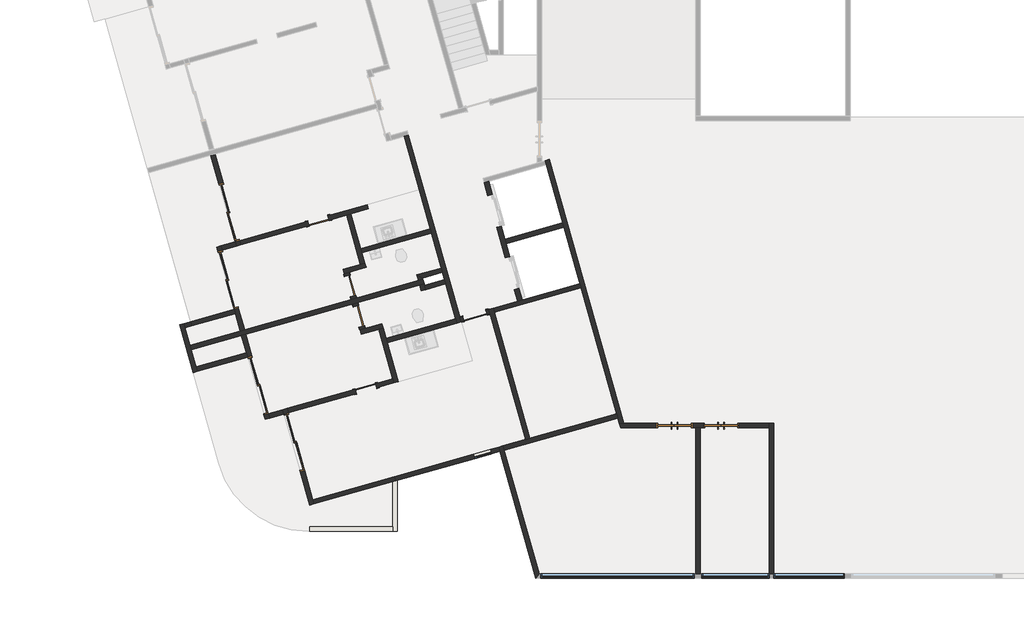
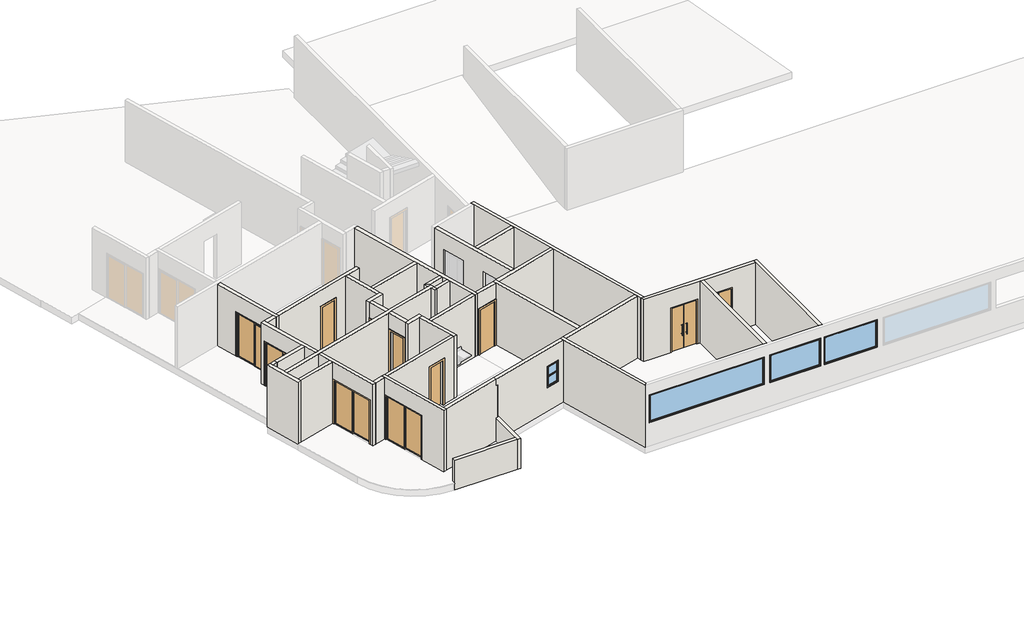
# One storey, part 1 of 4: 41 walls, 11 doors, 4 windows.
"""IFC4 building model written with IfcOpenShell, lengths in millimetres."""

from ifc_helpers import new_model, si_unit, frame, origin, place, context, project, spatial, polyline, outline, extrude, faceted_brep, transform, mapped, element, save
from components import door_1_20_x_2_10_046a985c, p2_80cm_9d4be4ef, p3_70cm_ef4d15e3, p3_70cm_0a698c7c, p4_correr_200cm_eaaa0877, p4_correr_200cm_830b8f20, bx_60cm_cef95a5c, m_fixo1_jf_2_25m_9b9146e4, m_fixo1_jf_2_35m_2763504e, m_fixo1_jf_5_10m_2770cfa0

model = new_model("IFC4")

# Units and contexts
model_context = context("Model", 3, world=origin())
ifc_project = project(units=[si_unit("LENGTHUNIT", "METRE", prefix="MILLI")], contexts=[model_context])

# Site, building, storey
site = spatial("IfcSite", under=ifc_project)
building = spatial("IfcBuilding", under=site)
storey = spatial("IfcBuildingStorey", under=building, Name="Garagem 2", Elevation=44950.0)

# Doors
placement = place(None, origin())
door_1_20_x_2_10_shape = door_1_20_x_2_10_046a985c(model_context)
element("IfcDoor", 1, ObjectType="Porta pivotante dupla sem revestimento : 1.20 x 2.10", at=placement, inside=storey, context=model_context, shape_type="MappedRepresentation", body=[
    mapped(door_1_20_x_2_10_shape, transform((-69028.6137209, 8486.0495751, 44950.0), x_axis=(1.0, 0.0, 0.0), y_axis=(0.0, 1.0, 0.0), z_axis=(0.0, 0.0, 1.0))),
])
element("IfcDoor", 2, ObjectType="Porta pivotante dupla sem revestimento : 1.20 x 2.10", at=placement, inside=storey, context=model_context, shape_type="MappedRepresentation", body=[
    mapped(door_1_20_x_2_10_shape, transform((-70578.6137209, 8486.0495751, 44950.0), x_axis=(1.0, 0.0, 0.0), y_axis=(0.0, 1.0, 0.0), z_axis=(0.0, 0.0, 1.0))),
])
p2_80cm_shape = p2_80cm_9d4be4ef(model_context)
element("IfcDoor", 3, ObjectType="M_Folha única1 : P2 - 80CM", at=placement, inside=storey, context=model_context, shape_type="MappedRepresentation", body=[
    mapped(p2_80cm_shape, transform((-77213.6668366, 12144.847648, 44950.0), x_axis=(0.9623628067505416, 0.2717679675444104, 0.0), y_axis=(-0.2717679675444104, 0.9623628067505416, 0.0), z_axis=(0.0, 0.0, 1.0))),
])
p3_70cm_shape = p3_70cm_ef4d15e3(model_context)
element("IfcDoor", 4, ObjectType="M_Folha única1 : P3 - 70CM", at=placement, inside=storey, context=model_context, shape_type="MappedRepresentation", body=[
    mapped(p3_70cm_shape, transform((-80840.7851368, 9718.5269225, 44950.0), x_axis=(0.9623628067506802, 0.2717679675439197, 0.0), y_axis=(-0.2717679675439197, 0.9623628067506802, 0.0), z_axis=(0.0, 0.0, 1.0))),
])
element("IfcDoor", 5, ObjectType="M_Folha única1 : P3 - 70CM", at=placement, inside=storey, context=model_context, shape_type="MappedRepresentation", body=[
    mapped(p3_70cm_shape, transform((-81362.5862327, 13130.1209218, 44950.0), x_axis=(0.271767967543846, -0.9623628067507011, 0.0), y_axis=(0.9623628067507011, 0.271767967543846, 0.0), z_axis=(0.0, 0.0, 1.0))),
])
p3_70cm_2_shape = p3_70cm_0a698c7c(model_context)
element("IfcDoor", 6, ObjectType="M_Folha única1 : P3 - 70CM", at=placement, inside=storey, context=model_context, shape_type="MappedRepresentation", body=[
    mapped(p3_70cm_2_shape, transform((-81077.2298668, 12119.6399747, 44950.0), x_axis=(-0.27176796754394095, 0.9623628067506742, 0.0), y_axis=(-0.9623628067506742, -0.27176796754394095, 0.0), z_axis=(0.0, 0.0, 1.0))),
])
element("IfcDoor", 7, ObjectType="M_Folha única1 : P3 - 70CM", at=placement, inside=storey, context=model_context, shape_type="MappedRepresentation", body=[
    mapped(p3_70cm_2_shape, transform((-82417.0393485, 15300.2312016, 44950.0), x_axis=(0.9623628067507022, 0.27176796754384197, 0.0), y_axis=(-0.27176796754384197, 0.9623628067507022, 0.0), z_axis=(0.0, 0.0, 1.0))),
])
p4_correr_200cm_shape = p4_correr_200cm_eaaa0877(model_context)
element("IfcDoor", 8, ObjectType="Porta de correr dupla envidraçada sem revestimento : P4 - CORRER - 200CM", at=placement, inside=storey, context=model_context, shape_type="MappedRepresentation", body=[
    mapped(p4_correr_200cm_shape, transform((-84429.028315, 9822.2616509, 44950.0), x_axis=(-0.27176796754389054, 0.9623628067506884, 0.0), y_axis=(-0.9623628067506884, -0.27176796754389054, 0.0), z_axis=(0.0, 0.0, 1.0))),
])
element("IfcDoor", 9, ObjectType="Porta de correr dupla envidraçada sem revestimento : P4 - CORRER - 200CM", at=placement, inside=storey, context=model_context, shape_type="MappedRepresentation", body=[
    mapped(p4_correr_200cm_shape, transform((-83223.012588, 7928.7516937, 44950.0), x_axis=(-0.2717679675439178, 0.9623628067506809, 0.0), y_axis=(-0.9623628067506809, -0.2717679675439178, 0.0), z_axis=(0.0, 0.0, 1.0))),
])
p4_correr_200cm_2_shape = p4_correr_200cm_830b8f20(model_context)
element("IfcDoor", 10, ObjectType="Porta de correr dupla envidraçada sem revestimento : P4 - CORRER - 200CM", at=placement, inside=storey, context=model_context, shape_type="MappedRepresentation", body=[
    mapped(p4_correr_200cm_2_shape, transform((-85383.5679299, 15579.5360073, 44950.0), x_axis=(-0.2717679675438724, 0.9623628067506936, 0.0), y_axis=(-0.9623628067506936, -0.2717679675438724, 0.0), z_axis=(0.0, 0.0, 1.0))),
])
element("IfcDoor", 11, ObjectType="Porta de correr dupla envidraçada sem revestimento : P4 - CORRER - 200CM", at=placement, inside=storey, context=model_context, shape_type="MappedRepresentation", body=[
    mapped(p4_correr_200cm_2_shape, transform((-85420.9813965, 13334.8858955, 44950.0), x_axis=(-0.27176796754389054, 0.9623628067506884, 0.0), y_axis=(-0.9623628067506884, -0.27176796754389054, 0.0), z_axis=(0.0, 0.0, 1.0))),
])

# Walls
element("IfcWall", 12, ObjectType="Básica .15 -  Interna", at=placement, inside=storey, context=model_context, shape_type="Brep", body=[
    faceted_brep([(-75385.7571642, 8063.7475359, 44950.0), (-76567.7484146, 12249.3196164, 44950.0), (-76608.5136097, 12393.6740374, 44950.0), (-76608.5136097, 12393.6740374, 47850.0), (-76567.7484146, 12249.3196164, 47850.0), (-75385.7571642, 8063.7475359, 47850.0), (-75530.1115852, 8022.9823408, 44950.0), (-75530.1115852, 8022.9823408, 47850.0), (-76712.1028356, 12208.5544213, 47850.0), (-76752.8680308, 12352.9088423, 47850.0), (-76752.8680308, 12352.9088423, 44950.0), (-76712.1028356, 12208.5544213, 44950.0)], [[[0, 1, 2, 3, 4, 5]], [[6, 7, 8, 9, 10, 11]], [[2, 1, 0, 6, 11, 10]], [[5, 4, 3, 9, 8, 7]], [[3, 2, 10, 9]], [[0, 5, 7, 6]]]),
])
element("IfcWall", 13, ObjectType="Básica .15 -  Interna", at=placement, inside=storey, context=model_context, shape_type="Brep", body=[
    faceted_brep([(-79571.9228624, 18103.967491, 44950.0), (-78702.2653663, 15024.4065094, 44950.0), (-78661.5001712, 14880.0520884, 44950.0), (-78335.3786101, 13725.2167203, 44950.0), (-78294.613415, 13580.8622993, 44950.0), (-78226.6714231, 13340.2715976, 44950.0), (-78185.906228, 13195.9171766, 44950.0), (-77818.8200634, 11896.0212586, 44950.0), (-77818.8200634, 11896.0212586, 47850.0), (-78185.906228, 13195.9171766, 47850.0), (-78226.6714231, 13340.2715976, 47850.0), (-78294.613415, 13580.8622993, 47850.0), (-78335.3786101, 13725.2167203, 47850.0), (-78661.5001712, 14880.0520884, 47850.0), (-78702.2653663, 15024.4065094, 47850.0), (-79571.9228624, 18103.967491, 47850.0), (-79427.5684414, 18144.7326862, 44950.0), (-79427.5684414, 18144.7326862, 47850.0), (-77715.2308375, 12081.1408747, 47850.0), (-77674.4656424, 11936.7864537, 47850.0), (-77674.4656424, 11936.7864537, 44950.0), (-77715.2308375, 12081.1408747, 44950.0)], [[[0, 1, 2, 3, 4, 5, 6, 7, 8, 9, 10, 11, 12, 13, 14, 15]], [[16, 17, 18, 19, 20, 21]], [[7, 6, 5, 4, 3, 2, 1, 0, 16, 21, 20]], [[15, 14, 13, 12, 11, 10, 9, 8, 19, 18, 17]], [[0, 15, 17, 16]], [[8, 7, 20, 19]]]),
])
element("IfcWall", 14, ObjectType="Básica .15 -  Interna", at=placement, inside=storey, context=model_context, shape_type="Brep", body=[
    faceted_brep([(-85017.5646639, 11630.3683862, 47850.0), (-85180.6254444, 12207.7860702, 47850.0), (-85221.3906395, 12352.1404912, 47850.0), (-85805.6917697, 14421.2205257, 47850.0), (-85805.6917697, 14421.2205257, 44950.0), (-85764.9265746, 14276.8661047, 44950.0), (-85764.9265746, 14276.8661047, 47050.0), (-85221.3906395, 12352.1404912, 47050.0), (-85221.3906395, 12352.1404912, 44950.0), (-85180.6254444, 12207.7860702, 44950.0), (-85017.5646639, 11630.3683862, 44950.0), (-85661.3373487, 14461.9857209, 47850.0), (-85620.5721536, 14317.6312998, 47850.0), (-84873.2102428, 11671.1335813, 47850.0), (-84873.2102428, 11671.1335813, 44950.0), (-85077.0362185, 12392.9056863, 44950.0), (-85077.0362185, 12392.9056863, 47050.0), (-85620.5721536, 14317.6312998, 47050.0), (-85620.5721536, 14317.6312998, 44950.0), (-85661.3373487, 14461.9857209, 44950.0)], [[[0, 1, 2, 3, 4, 5, 6, 7, 8, 9, 10]], [[11, 12, 13, 14, 15, 16, 17, 18, 19]], [[4, 19, 18, 5]], [[14, 10, 9, 8, 15]], [[3, 2, 1, 0, 13, 12, 11]], [[4, 3, 11, 19]], [[0, 10, 14, 13]], [[17, 6, 5, 18]], [[6, 17, 16, 7]], [[7, 16, 15, 8]]]),
])
element("IfcWall", 15, ObjectType="Básica .15 -  Interna", at=placement, inside=storey, context=model_context, shape_type="Brep", body=[
    faceted_brep([(-82710.8886682, 5839.2890616, 47850.0), (-83566.957766, 8870.7319029, 47850.0), (-83607.7229611, 9015.0863239, 47850.0), (-83607.7229611, 9015.0863239, 44950.0), (-83566.957766, 8870.7319029, 44950.0), (-83566.957766, 8870.7319029, 47050.0), (-83023.4218309, 6946.0062894, 47050.0), (-83023.4218309, 6946.0062894, 44950.0), (-82710.8886682, 5839.2890616, 44950.0), (-83463.3685401, 9055.851519, 47850.0), (-83422.603345, 8911.497098, 47850.0), (-82607.2994424, 6024.4086777, 47850.0), (-82566.5342472, 5880.0542567, 47850.0), (-82566.5342472, 5880.0542567, 44950.0), (-82607.2994424, 6024.4086777, 44950.0), (-82879.0674099, 6986.7714845, 44950.0), (-82879.0674099, 6986.7714845, 47050.0), (-83422.603345, 8911.497098, 47050.0), (-83422.603345, 8911.497098, 44950.0), (-83463.3685401, 9055.851519, 44950.0)], [[[0, 1, 2, 3, 4, 5, 6, 7, 8]], [[9, 10, 11, 12, 13, 14, 15, 16, 17, 18, 19]], [[3, 19, 18, 4]], [[13, 8, 7, 15, 14]], [[2, 1, 0, 12, 11, 10, 9]], [[3, 2, 9, 19]], [[0, 8, 13, 12]], [[17, 5, 4, 18]], [[5, 17, 16, 6]], [[6, 16, 15, 7]]]),
])
element("IfcWall", 16, ObjectType="Básica .15 - Externa", at=placement, inside=storey, context=model_context, shape_type="Brep", body=[
    faceted_brep([(-79945.4990038, 6620.2256515, 46050.0), (-79945.4990038, 6620.2256515, 44950.0), (-79945.4990038, 6620.2256515, 44650.0), (-79945.4990038, 5119.4122055, 44650.0), (-79945.4990038, 4969.4122055, 44650.0), (-79945.4990038, 4969.4122055, 46050.0), (-79945.4990038, 5119.4122055, 46050.0), (-79795.4990038, 6662.5851389, 44650.0), (-79795.4990038, 6662.5851389, 46050.0), (-79795.4990038, 4969.4122055, 46050.0), (-79795.4990038, 4969.4122055, 44650.0), (-79850.1164062, 6647.1613711, 44650.0)], [[[0, 1, 2, 3, 4, 5, 6]], [[7, 8, 9, 10]], [[4, 3, 2, 11, 7, 10]], [[0, 6, 5, 9, 8]], [[5, 4, 10, 9]], [[0, 8, 7, 11, 2, 1]]]),
])
element("IfcWall", 17, ObjectType="Básica .15 - Externa", at=placement, inside=storey, context=model_context, shape_type="SweptSolid", body=[
    extrude(outline(polyline([(-82713.5540687, 5119.4122055), (-79945.4990038, 5119.4122055), (-79945.4990038, 4969.4122055), (-82713.5540687, 4969.4122055), (-82713.5540687, 5119.4122055)])), frame((0.0, 0.0, 44650.0), z_axis=(0.0, 0.0, 1.0), x_axis=(1.0, 0.0, 0.0)), (0.0, 0.0, 1.0), 1400.0),
])
element("IfcWall", 18, ObjectType="Básica .15 -  Interna", at=placement, inside=storey, context=model_context, shape_type="Brep", body=[
    faceted_brep([(-73726.2370035, 13207.6191002, 44950.0), (-75646.150803, 12665.442005, 44950.0), (-75790.505224, 12624.6768098, 44950.0), (-76608.5136097, 12393.6740374, 44950.0), (-76608.5136097, 12393.6740374, 47850.0), (-75790.505224, 12624.6768098, 47850.0), (-75646.150803, 12665.442005, 47850.0), (-73726.2370035, 13207.6191002, 47850.0), (-73685.4718084, 13063.2646792, 44950.0), (-73685.4718084, 13063.2646792, 47850.0), (-76567.7484146, 12249.3196164, 47850.0), (-76567.7484146, 12249.3196164, 44950.0)], [[[0, 1, 2, 3, 4, 5, 6, 7]], [[8, 9, 10, 11]], [[3, 2, 1, 0, 8, 11]], [[7, 6, 5, 4, 10, 9]], [[4, 3, 11, 10]], [[0, 7, 9, 8]]]),
])
element("IfcWall", 19, ObjectType="Básica .15 -  Interna", at=placement, inside=storey, context=model_context, shape_type="Brep", body=[
    faceted_brep([(-74881.2508656, 17297.6610289, 44950.0), (-74840.4856705, 17153.3066079, 44950.0), (-74296.9497354, 15228.5809944, 44950.0), (-74256.1845402, 15084.2265734, 44950.0), (-73726.2370035, 13207.6191002, 44950.0), (-73685.4718084, 13063.2646792, 44950.0), (-72503.480558, 8877.6925987, 44950.0), (-72462.7153628, 8733.3381777, 44950.0), (-72414.0616503, 8561.0495751, 44950.0), (-72414.0616503, 8561.0495751, 47850.0), (-72462.7153628, 8733.3381777, 47850.0), (-72503.480558, 8877.6925987, 47850.0), (-73685.4718084, 13063.2646792, 47850.0), (-73726.2370035, 13207.6191002, 47850.0), (-74256.1845402, 15084.2265734, 47850.0), (-74296.9497354, 15228.5809944, 47850.0), (-74840.4856705, 17153.3066079, 47850.0), (-74881.2508656, 17297.6610289, 47850.0), (-74736.8964446, 17338.426224, 44950.0), (-74736.8964446, 17338.426224, 47850.0), (-72258.1952775, 8561.0495751, 47850.0), (-72258.1952775, 8561.0495751, 44950.0)], [[[0, 1, 2, 3, 4, 5, 6, 7, 8, 9, 10, 11, 12, 13, 14, 15, 16, 17]], [[18, 19, 20, 21]], [[8, 7, 6, 5, 4, 3, 2, 1, 0, 18, 21]], [[17, 16, 15, 14, 13, 12, 11, 10, 9, 20, 19]], [[9, 8, 21, 20]], [[0, 17, 19, 18]]]),
])
element("IfcWall", 20, ObjectType="Básica .15 -  Interna", at=placement, inside=storey, context=model_context, shape_type="Brep", body=[
    faceted_brep([(-76483.167581, 15077.4768805, 44950.0), (-76197.8112151, 14066.9959334, 44950.0), (-76197.8112151, 14066.9959334, 47075.0), (-75898.8664508, 13008.396846, 47075.0), (-75898.8664508, 13008.396846, 44950.0), (-75790.505224, 12624.6768098, 44950.0), (-75790.505224, 12624.6768098, 47850.0), (-76904.7538909, 16570.3643175, 47850.0), (-76904.7538909, 16570.3643175, 44950.0), (-76782.1123453, 16136.075968, 44950.0), (-76782.1123453, 16136.075968, 47075.0), (-76483.167581, 15077.4768805, 47075.0), (-76053.4567941, 14107.7611286, 47075.0), (-76053.4567941, 14107.7611286, 44950.0), (-76176.0983397, 14542.0494781, 44950.0), (-76216.8635348, 14686.4038991, 44950.0), (-76338.81316, 15118.2420757, 44950.0), (-76338.81316, 15118.2420757, 47075.0), (-76637.7579243, 16176.8411631, 47075.0), (-76637.7579243, 16176.8411631, 44950.0), (-76760.3994699, 16611.1295126, 44950.0), (-76760.3994699, 16611.1295126, 47850.0), (-76216.8635348, 14686.4038991, 47850.0), (-76176.0983397, 14542.0494781, 47850.0), (-75646.150803, 12665.442005, 47850.0), (-75646.150803, 12665.442005, 44950.0), (-75754.5120298, 13049.1620412, 44950.0), (-75754.5120298, 13049.1620412, 47075.0)], [[[0, 1, 2, 3, 4, 5, 6, 7, 8, 9, 10, 11]], [[12, 13, 14, 15, 16, 17, 18, 19, 20, 21, 22, 23, 24, 25, 26, 27]], [[9, 8, 20, 19]], [[26, 25, 5, 4]], [[16, 15, 14, 13, 1, 0]], [[7, 6, 24, 23, 22, 21]], [[8, 7, 21, 20]], [[6, 5, 25, 24]], [[4, 3, 27, 26]], [[2, 1, 13, 12]], [[3, 2, 12, 27]], [[19, 18, 10, 9]], [[17, 16, 0, 11]], [[18, 17, 11, 10]]]),
])
element("IfcWall", 21, ObjectType="Básica .15 -  Interna", at=placement, inside=storey, context=model_context, shape_type="SweptSolid", body=[
    extrude(outline(polyline([(-74256.1845402, 15084.2265734), (-76176.0983397, 14542.0494781), (-76216.8635348, 14686.4038991), (-74296.9497354, 15228.5809944), (-74256.1845402, 15084.2265734)])), frame((0.0, 0.0, 44950.0), z_axis=(0.0, 0.0, 1.0), x_axis=(1.0, 0.0, 0.0)), (0.0, 0.0, 1.0), 2900.0),
])
element("IfcWall", 22, ObjectType="Básica .15 -  Interna", at=placement, inside=storey, context=model_context, shape_type="Brep", body=[
    faceted_brep([(-82566.5342472, 5880.0542567, 44950.0), (-79945.4990038, 6620.2256515, 44950.0), (-79850.1164062, 6647.1613711, 44950.0), (-79850.1164062, 6647.1613711, 47550.0), (-79945.4990038, 6620.2256515, 47550.0), (-79945.4990038, 6620.2256515, 47850.0), (-82566.5342472, 5880.0542567, 47850.0), (-82607.2994424, 6024.4086777, 44950.0), (-82607.2994424, 6024.4086777, 47850.0), (-79945.4990038, 6776.0920243, 47850.0), (-79945.4990038, 6776.0920243, 47550.0), (-79890.8816014, 6791.5157921, 47550.0), (-79890.8816014, 6791.5157921, 44950.0), (-79945.4990038, 6776.0920243, 44950.0)], [[[0, 1, 2, 3, 4, 5, 6]], [[7, 8, 9, 10, 11, 12, 13]], [[2, 1, 0, 7, 13, 12]], [[6, 5, 9, 8]], [[0, 6, 8, 7]], [[2, 12, 11, 3]], [[10, 4, 3, 11]], [[5, 4, 10, 9]]]),
])
element("IfcWall", 23, ObjectType="Básica .15 -  Interna", at=placement, inside=storey, context=model_context, shape_type="Brep", body=[
    faceted_brep([(-85221.3906395, 12352.1404912, 44950.0), (-86668.7560772, 11943.4094383, 44950.0), (-86668.7560772, 11943.4094383, 47850.0), (-85221.3906395, 12352.1404912, 47850.0), (-85221.3906395, 12352.1404912, 47050.0), (-85180.6254444, 12207.7860702, 44950.0), (-85180.6254444, 12207.7860702, 47850.0), (-86627.9908821, 11799.0550173, 47850.0), (-86627.9908821, 11799.0550173, 44950.0)], [[[0, 1, 2, 3, 4]], [[5, 6, 7, 8]], [[1, 0, 5, 8]], [[2, 1, 8, 7]], [[3, 2, 7, 6]], [[0, 4, 3, 6, 5]]]),
])
element("IfcWall", 24, ObjectType="Básica .15 - Externa", at=placement, inside=storey, context=model_context, shape_type="Brep", body=[
    faceted_brep([(-86444.4738537, 10292.215871, 44950.0), (-86485.2390488, 10436.570292, 44950.0), (-86648.2998293, 11013.987976, 44950.0), (-86689.0650245, 11158.342397, 44950.0), (-86852.125805, 11735.7600811, 44950.0), (-86892.8910001, 11880.1145021, 44950.0), (-86892.8910001, 11880.1145021, 47850.0), (-86852.125805, 11735.7600811, 47850.0), (-86689.0650245, 11158.342397, 47850.0), (-86648.2998293, 11013.987976, 47850.0), (-86485.2390488, 10436.570292, 47850.0), (-86444.4738537, 10292.215871, 47850.0), (-86588.8282747, 10251.4506758, 44950.0), (-86588.8282747, 10251.4506758, 47850.0), (-87037.2454211, 11839.349307, 47850.0), (-87037.2454211, 11839.349307, 44950.0)], [[[0, 1, 2, 3, 4, 5, 6, 7, 8, 9, 10, 11]], [[12, 13, 14, 15]], [[5, 4, 3, 2, 1, 0, 12, 15]], [[11, 10, 9, 8, 7, 6, 14, 13]], [[6, 5, 15, 14]], [[0, 11, 13, 12]]]),
])
element("IfcWall", 25, ObjectType="Básica .15 -  Interna", at=placement, inside=storey, context=model_context, shape_type="Brep", body=[
    faceted_brep([(-86444.4738537, 10292.215871, 44950.0), (-84772.9734931, 10764.2418601, 44950.0), (-84772.9734931, 10764.2418601, 47050.0), (-84772.9734931, 10764.2418601, 47850.0), (-86444.4738537, 10292.215871, 47850.0), (-86485.2390488, 10436.570292, 44950.0), (-86485.2390488, 10436.570292, 47850.0), (-84813.7386882, 10908.5962811, 47850.0), (-84813.7386882, 10908.5962811, 44950.0)], [[[0, 1, 2, 3, 4]], [[5, 6, 7, 8]], [[1, 0, 5, 8]], [[4, 3, 7, 6]], [[0, 4, 6, 5]], [[3, 2, 1, 8, 7]]]),
])
element("IfcWall", 26, ObjectType="Básica .15 -  Interna", at=placement, inside=storey, context=model_context, shape_type="Brep", body=[
    faceted_brep([(-83607.7229611, 9015.0863239, 44950.0), (-84085.083137, 8880.2814417, 44950.0), (-84085.083137, 8880.2814417, 47050.0), (-84085.083137, 8880.2814417, 47850.0), (-83607.7229611, 9015.0863239, 47850.0), (-83566.957766, 8870.7319029, 44950.0), (-83566.957766, 8870.7319029, 47050.0), (-83566.957766, 8870.7319029, 47850.0), (-84044.3179418, 8735.9270207, 47850.0), (-84044.3179418, 8735.9270207, 44950.0)], [[[0, 1, 2, 3, 4]], [[5, 6, 7, 8, 9]], [[1, 0, 5, 9]], [[4, 3, 8, 7]], [[3, 2, 1, 9, 8]], [[0, 4, 7, 6, 5]]]),
])
element("IfcWall", 27, ObjectType="Básica .15 -  Interna", at=placement, inside=storey, context=model_context, shape_type="Brep", body=[
    faceted_brep([(-85183.9771729, 14596.790603, 44950.0), (-85661.3373487, 14461.9857209, 44950.0), (-85661.3373487, 14461.9857209, 47850.0), (-85183.9771729, 14596.790603, 47850.0), (-85183.9771729, 14596.790603, 47050.0), (-85143.2119778, 14452.436182, 44950.0), (-85143.2119778, 14452.436182, 47850.0), (-85620.5721536, 14317.6312998, 47850.0), (-85620.5721536, 14317.6312998, 47050.0), (-85620.5721536, 14317.6312998, 44950.0)], [[[0, 1, 2, 3, 4]], [[5, 6, 7, 8, 9]], [[1, 0, 5, 9]], [[3, 2, 7, 6]], [[2, 1, 9, 8, 7]], [[0, 4, 3, 6, 5]]]),
])
element("IfcWall", 28, ObjectType="Básica .15 -  Interna", at=placement, inside=storey, context=model_context, shape_type="Brep", body=[
    faceted_brep([(-85143.2119778, 14452.436182, 47850.0), (-85183.9771729, 14596.790603, 47850.0), (-85992.4868763, 17459.8199531, 47850.0), (-85992.4868763, 17459.8199531, 44950.0), (-85727.513108, 16521.5162165, 44950.0), (-85727.513108, 16521.5162165, 47050.0), (-85183.9771729, 14596.790603, 47050.0), (-85183.9771729, 14596.790603, 44950.0), (-85143.2119778, 14452.436182, 44950.0), (-85848.1324553, 17500.5851482, 47850.0), (-85039.6227519, 14637.5557982, 47850.0), (-84998.8575568, 14493.2013772, 47850.0), (-84998.8575568, 14493.2013772, 44950.0), (-85039.6227519, 14637.5557982, 44950.0), (-85039.6227519, 14637.5557982, 47050.0), (-85583.158687, 16562.2814117, 47050.0), (-85583.158687, 16562.2814117, 44950.0), (-85848.1324553, 17500.5851482, 44950.0)], [[[0, 1, 2, 3, 4, 5, 6, 7, 8]], [[9, 10, 11, 12, 13, 14, 15, 16, 17]], [[3, 17, 16, 4]], [[12, 8, 7, 13]], [[2, 1, 0, 11, 10, 9]], [[3, 2, 9, 17]], [[0, 8, 12, 11]], [[15, 5, 4, 16]], [[5, 15, 14, 6]], [[6, 14, 13, 7]]]),
])
element("IfcWall", 29, ObjectType="Básica .15 -  Interna", at=placement, inside=storey, context=model_context, shape_type="Brep", body=[
    faceted_brep([(-78945.0553533, 13345.2242614, 44950.0), (-81168.1134369, 12717.4402563, 44950.0), (-81312.4678579, 12676.6750612, 44950.0), (-84873.2102428, 11671.1335813, 44950.0), (-85017.5646639, 11630.3683862, 44950.0), (-86689.0650245, 11158.342397, 44950.0), (-86689.0650245, 11158.342397, 47850.0), (-85017.5646639, 11630.3683862, 47850.0), (-84873.2102428, 11671.1335813, 47850.0), (-81312.4678579, 12676.6750612, 47850.0), (-81168.1134369, 12717.4402563, 47850.0), (-78945.0553533, 13345.2242614, 47850.0), (-78904.2901581, 13200.8698403, 44950.0), (-78904.2901581, 13200.8698403, 47850.0), (-81127.3482417, 12573.0858353, 47850.0), (-81271.7026627, 12532.3206402, 47850.0), (-84832.4450477, 11526.7791603, 47850.0), (-84976.7994687, 11486.0139651, 47850.0), (-86648.2998293, 11013.987976, 47850.0), (-86648.2998293, 11013.987976, 44950.0), (-84976.7994687, 11486.0139651, 44950.0), (-84832.4450477, 11526.7791603, 44950.0), (-81271.7026627, 12532.3206402, 44950.0), (-81127.3482417, 12573.0858353, 44950.0)], [[[0, 1, 2, 3, 4, 5, 6, 7, 8, 9, 10, 11]], [[12, 13, 14, 15, 16, 17, 18, 19, 20, 21, 22, 23]], [[5, 4, 3, 2, 1, 0, 12, 23, 22, 21, 20, 19]], [[11, 10, 9, 8, 7, 6, 18, 17, 16, 15, 14, 13]], [[0, 11, 13, 12]], [[6, 5, 19, 18]]]),
])
element("IfcWall", 30, ObjectType="Básica .15 -  Interna", at=placement, inside=storey, context=model_context, shape_type="Brep", body=[
    faceted_brep([(-84188.6723628, 8695.1618256, 47850.0), (-84772.9734931, 10764.2418601, 47850.0), (-84813.7386882, 10908.5962811, 47850.0), (-84976.7994687, 11486.0139651, 47850.0), (-84976.7994687, 11486.0139651, 44950.0), (-84813.7386882, 10908.5962811, 44950.0), (-84772.9734931, 10764.2418601, 44950.0), (-84772.9734931, 10764.2418601, 47050.0), (-84229.437558, 8839.5162466, 47050.0), (-84229.437558, 8839.5162466, 44950.0), (-84188.6723628, 8695.1618256, 44950.0), (-84832.4450477, 11526.7791603, 47850.0), (-84085.083137, 8880.2814417, 47850.0), (-84044.3179418, 8735.9270207, 47850.0), (-84044.3179418, 8735.9270207, 44950.0), (-84085.083137, 8880.2814417, 44950.0), (-84085.083137, 8880.2814417, 47050.0), (-84628.6190721, 10805.0070552, 47050.0), (-84628.6190721, 10805.0070552, 44950.0), (-84832.4450477, 11526.7791603, 44950.0)], [[[0, 1, 2, 3, 4, 5, 6, 7, 8, 9, 10]], [[11, 12, 13, 14, 15, 16, 17, 18, 19]], [[14, 10, 9, 15]], [[4, 19, 18, 6, 5]], [[3, 2, 1, 0, 13, 12, 11]], [[0, 10, 14, 13]], [[4, 3, 11, 19]], [[17, 7, 6, 18]], [[7, 17, 16, 8]], [[8, 16, 15, 9]]]),
])
element("IfcWall", 31, ObjectType="Básica .15 - Externa", at=placement, inside=storey, context=model_context, shape_type="SweptSolid", body=[
    extrude(outline(polyline([(-86892.8910001, 11880.1145021), (-86668.7560772, 11943.4094383), (-86627.9908821, 11799.0550173), (-86852.125805, 11735.7600811), (-86892.8910001, 11880.1145021)])), frame((0.0, 0.0, 44950.0), z_axis=(0.0, 0.0, 1.0), x_axis=(1.0, 0.0, 0.0)), (0.0, 0.0, 1.0), 2900.0),
])
element("IfcWall", 32, ObjectType="Básica .15 -  Interna", at=placement, inside=storey, context=model_context, shape_type="SweptSolid", body=[
    extrude(outline(polyline([(-80169.4554031, 11388.8386864), (-77859.7846669, 12041.0818085), (-77819.0194718, 11896.7273875), (-80128.690208, 11244.4842654), (-80169.4554031, 11388.8386864)])), frame((0.0, 0.0, 44950.0), z_axis=(0.0, 0.0, 1.0), x_axis=(1.0, 0.0, 0.0)), (0.0, 0.0, 1.0), 2900.0),
])
element("IfcWall", 33, ObjectType="Básica .15 -  Interna", at=placement, inside=storey, context=model_context, shape_type="SweptSolid", body=[
    extrude(outline(polyline([(-78185.906228, 13195.9171766), (-78849.9365646, 13008.397279), (-78890.7017597, 13152.7517), (-78226.6714231, 13340.2715976), (-78185.906228, 13195.9171766)])), frame((0.0, 0.0, 44950.0), z_axis=(0.0, 0.0, 1.0), x_axis=(1.0, 0.0, 0.0)), (0.0, 0.0, 1.0), 2900.0),
])
element("IfcWall", 34, ObjectType="Básica .15 -  Interna", at=placement, inside=storey, context=model_context, shape_type="Brep", body=[
    faceted_brep([(-80986.3462968, 11521.8396931, 44950.0), (-80408.9286128, 11684.9004736, 44950.0), (-80264.5741917, 11725.6656688, 44950.0), (-80264.5741917, 11725.6656688, 47850.0), (-80408.9286128, 11684.9004736, 47850.0), (-80986.3462968, 11521.8396931, 47850.0), (-81027.1114919, 11666.1941141, 44950.0), (-81027.1114919, 11666.1941141, 47850.0), (-80882.7570709, 11706.9593092, 47850.0), (-80305.3393869, 11870.0200898, 47850.0), (-80305.3393869, 11870.0200898, 44950.0), (-80882.7570709, 11706.9593092, 44950.0)], [[[0, 1, 2, 3, 4, 5]], [[6, 7, 8, 9, 10, 11]], [[2, 1, 0, 6, 11, 10]], [[5, 4, 3, 9, 8, 7]], [[0, 5, 7, 6]], [[3, 2, 10, 9]]]),
])
element("IfcWall", 35, ObjectType="Básica .15 -  Interna", at=placement, inside=storey, context=model_context, shape_type="SweptSolid", body=[
    extrude(outline(polyline([(900.0, -2900.0), (0.0, -2900.0), (0.0, 0.0), (100.0, 0.0), (100.0, -2100.0), (800.0, -2100.0), (800.0, 0.0), (900.0, 0.0), (900.0, -2900.0)])), frame((-81271.7026627, 12532.3206402, 44950.0), z_axis=(0.9623628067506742, 0.271767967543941, 0.0), x_axis=(0.271767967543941, -0.9623628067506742, 0.0)), (0.0, 0.0, 1.0), 150.0),
])
element("IfcWall", 36, ObjectType="Básica .15 -  Interna", at=placement, inside=storey, context=model_context, shape_type="Brep", body=[
    faceted_brep([(-80408.9286128, 11684.9004736, 44950.0), (-79946.9230679, 10048.8837021, 44950.0), (-79906.1578728, 9904.5292811, 44950.0), (-79906.1578728, 9904.5292811, 47850.0), (-79946.9230679, 10048.8837021, 47850.0), (-80408.9286128, 11684.9004736, 47850.0), (-80264.5741917, 11725.6656688, 44950.0), (-80264.5741917, 11725.6656688, 47850.0), (-80169.4554031, 11388.8386864, 47850.0), (-80128.690208, 11244.4842654, 47850.0), (-79761.8034518, 9945.2944763, 47850.0), (-79761.8034518, 9945.2944763, 44950.0), (-80128.690208, 11244.4842654, 44950.0), (-80169.4554031, 11388.8386864, 44950.0)], [[[0, 1, 2, 3, 4, 5]], [[6, 7, 8, 9, 10, 11, 12, 13]], [[2, 1, 0, 6, 13, 12, 11]], [[5, 4, 3, 10, 9, 8, 7]], [[3, 2, 11, 10]], [[0, 5, 7, 6]]]),
])
element("IfcWall", 37, ObjectType="Básica .15 -  Interna", at=placement, inside=storey, context=model_context, shape_type="Brep", body=[
    faceted_brep([(-79946.9230679, 10048.8837021, 44950.0), (-80524.340752, 9885.8229216, 44950.0), (-80524.340752, 9885.8229216, 47050.0), (-81197.9947167, 9695.5853443, 47050.0), (-81197.9947167, 9695.5853443, 44950.0), (-83463.3685401, 9055.851519, 44950.0), (-83463.3685401, 9055.851519, 47850.0), (-79946.9230679, 10048.8837021, 47850.0), (-80483.5755569, 9741.4685006, 47050.0), (-80483.5755569, 9741.4685006, 44950.0), (-79906.1578728, 9904.5292811, 44950.0), (-79906.1578728, 9904.5292811, 47850.0), (-83422.603345, 8911.497098, 47850.0), (-83422.603345, 8911.497098, 47050.0), (-83422.603345, 8911.497098, 44950.0), (-81157.2295216, 9551.2309233, 44950.0), (-81157.2295216, 9551.2309233, 47050.0)], [[[0, 1, 2, 3, 4, 5, 6, 7]], [[8, 9, 10, 11, 12, 13, 14, 15, 16]], [[15, 14, 5, 4]], [[10, 9, 1, 0]], [[7, 6, 12, 11]], [[2, 1, 9, 8]], [[3, 2, 8, 16]], [[4, 3, 16, 15]], [[0, 7, 11, 10]], [[6, 5, 14, 13, 12]]]),
])
element("IfcWall", 38, ObjectType="Básica .15 -  Interna", at=placement, inside=storey, context=model_context, shape_type="Brep", body=[
    faceted_brep([(-79048.6445791, 13160.1046452, 44950.0), (-78994.2909856, 12967.6320839, 44950.0), (-78994.2909856, 12967.6320839, 47850.0), (-79048.6445791, 13160.1046452, 47850.0), (-78904.2901581, 13200.8698403, 44950.0), (-78904.2901581, 13200.8698403, 47850.0), (-78890.7017597, 13152.7517, 47850.0), (-78849.9365646, 13008.397279, 47850.0), (-78849.9365646, 13008.397279, 44950.0), (-78890.7017597, 13152.7517, 44950.0)], [[[0, 1, 2, 3]], [[4, 5, 6, 7, 8, 9]], [[1, 0, 4, 9, 8]], [[3, 2, 7, 6, 5]], [[0, 3, 5, 4]], [[2, 1, 8, 7]]]),
])
element("IfcWall", 39, ObjectType="Básica .15 -  Interna", at=placement, inside=storey, context=model_context, shape_type="SweptSolid", body=[
    extrude(outline(polyline([(-79143.7633678, 13496.9316276), (-78335.3786101, 13725.2167203), (-78294.613415, 13580.8622993), (-78958.6437516, 13393.3424017), (-79143.7633678, 13496.9316276)])), frame((0.0, 0.0, 44950.0), z_axis=(0.0, 0.0, 1.0), x_axis=(1.0, 0.0, 0.0)), (0.0, 0.0, 1.0), 2900.0),
])
element("IfcWall", 40, ObjectType="Básica .15 -  Interna", at=placement, inside=storey, context=model_context, shape_type="SweptSolid", body=[
    extrude(outline(polyline([(-79089.4097743, 13304.4590662), (-79143.7633678, 13496.9316276), (-78958.6437516, 13393.3424017), (-78945.0553533, 13345.2242614), (-79089.4097743, 13304.4590662)])), frame((0.0, 0.0, 44950.0), z_axis=(0.0, 0.0, 1.0), x_axis=(1.0, 0.0, 0.0)), (0.0, 0.0, 1.0), 2900.0),
])
element("IfcWall", 41, ObjectType="Básica .15 -  Interna", at=placement, inside=storey, context=model_context, shape_type="Brep", body=[
    faceted_brep([(-80876.0521187, 13890.981984, 44950.0), (-81020.4065397, 13850.2167888, 44950.0), (-81597.8242238, 13687.1560083, 44950.0), (-81597.8242238, 13687.1560083, 47850.0), (-81020.4065397, 13850.2167888, 47850.0), (-80876.0521187, 13890.981984, 47850.0), (-80835.2869236, 13746.6275629, 44950.0), (-80835.2869236, 13746.6275629, 47850.0), (-81412.7046076, 13583.5667824, 47850.0), (-81557.0590287, 13542.8015873, 47850.0), (-81557.0590287, 13542.8015873, 44950.0), (-81412.7046076, 13583.5667824, 44950.0)], [[[0, 1, 2, 3, 4, 5]], [[6, 7, 8, 9, 10, 11]], [[2, 1, 0, 6, 11, 10]], [[5, 4, 3, 9, 8, 7]], [[0, 5, 7, 6]], [[3, 2, 10, 9]]]),
])
element("IfcWall", 42, ObjectType="Básica .15 -  Interna", at=placement, inside=storey, context=model_context, shape_type="Brep", body=[
    faceted_brep([(-81482.4120846, 15486.2335603, 44950.0), (-81020.4065397, 13850.2167888, 44950.0), (-81020.4065397, 13850.2167888, 47850.0), (-81482.4120846, 15486.2335603, 47850.0), (-81338.0576635, 15526.9987554, 44950.0), (-81338.0576635, 15526.9987554, 47850.0), (-81011.9361025, 14372.1633873, 47850.0), (-80971.1709074, 14227.8089663, 47850.0), (-80876.0521187, 13890.981984, 47850.0), (-80876.0521187, 13890.981984, 44950.0), (-80971.1709074, 14227.8089663, 44950.0), (-81011.9361025, 14372.1633873, 44950.0)], [[[0, 1, 2, 3]], [[4, 5, 6, 7, 8, 9, 10, 11]], [[1, 0, 4, 11, 10, 9]], [[3, 2, 8, 7, 6, 5]], [[0, 3, 5, 4]], [[2, 1, 9, 8]]]),
])
element("IfcWall", 43, ObjectType="Básica .15 -  Interna", at=placement, inside=storey, context=model_context, shape_type="SweptSolid", body=[
    extrude(outline(polyline([(-81011.9361025, 14372.1633873), (-78702.2653663, 15024.4065094), (-78661.5001712, 14880.0520884), (-80971.1709074, 14227.8089663), (-81011.9361025, 14372.1633873)])), frame((0.0, 0.0, 44950.0), z_axis=(0.0, 0.0, 1.0), x_axis=(1.0, 0.0, 0.0)), (0.0, 0.0, 1.0), 2900.0),
])
element("IfcWall", 44, ObjectType="Básica .15 -  Interna", at=placement, inside=storey, context=model_context, shape_type="Brep", body=[
    faceted_brep([(-80801.4051746, 15834.413957, 44950.0), (-82100.5949637, 15467.5272008, 44950.0), (-82100.5949637, 15467.5272008, 47050.0), (-82774.2489285, 15277.2896235, 47050.0), (-82774.2489285, 15277.2896235, 44950.0), (-85039.6227519, 14637.5557982, 44950.0), (-85039.6227519, 14637.5557982, 47050.0), (-85039.6227519, 14637.5557982, 47850.0), (-80801.4051746, 15834.413957, 47850.0), (-82059.8297686, 15323.1727798, 47050.0), (-82059.8297686, 15323.1727798, 44950.0), (-81482.4120846, 15486.2335603, 44950.0), (-81338.0576635, 15526.9987554, 44950.0), (-80760.6399795, 15690.059536, 44950.0), (-80760.6399795, 15690.059536, 47850.0), (-81338.0576635, 15526.9987554, 47850.0), (-81482.4120846, 15486.2335603, 47850.0), (-84998.8575568, 14493.2013772, 47850.0), (-84998.8575568, 14493.2013772, 44950.0), (-82733.4837333, 15132.9352025, 44950.0), (-82733.4837333, 15132.9352025, 47050.0)], [[[0, 1, 2, 3, 4, 5, 6, 7, 8]], [[9, 10, 11, 12, 13, 14, 15, 16, 17, 18, 19, 20]], [[19, 18, 5, 4]], [[13, 12, 11, 10, 1, 0]], [[8, 7, 17, 16, 15, 14]], [[0, 8, 14, 13]], [[2, 1, 10, 9]], [[3, 2, 9, 20]], [[4, 3, 20, 19]], [[7, 6, 5, 18, 17]]]),
])
element("IfcWall", 45, ObjectType="Básica .15 -  Interna", at=placement, inside=storey, context=model_context, shape_type="SweptSolid", body=[
    extrude(outline(polyline([(-250.0, -2100.0), (-250.0, 0.0), (-150.0, 0.0), (-150.0, -2900.0), (-1050.0, -2900.0), (-1050.0, 0.0), (-950.0, 0.0), (-950.0, -2100.0), (-250.0, -2100.0)])), frame((-81271.7026627, 12532.3206402, 44950.0), z_axis=(0.9623628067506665, 0.2717679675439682, 0.0), x_axis=(0.2717679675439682, -0.9623628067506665, 0.0)), (0.0, 0.0, 1.0), 150.0),
])
element("IfcWall", 46, ObjectType="Básica .15 -  Interna", at=placement, inside=storey, context=model_context, shape_type="SweptSolid", body=[
    extrude(outline(polyline([(-1100.0, -2100.0), (-1100.0, 0.0), (-999.9999999, 0.0), (-999.9999999, -2900.0), (-2000.0, -2900.0), (-2000.0, 0.0), (-1900.0, 0.0), (-1900.0, -2100.0), (-1100.0, -2100.0)])), frame((-75749.7400289, 12480.3223888, 44950.0), z_axis=(-0.2717679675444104, 0.9623628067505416, 0.0), x_axis=(0.9623628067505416, 0.2717679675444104, 0.0)), (0.0, 0.0, 1.0), 150.0),
])
element("IfcWall", 47, ObjectType="Básica .15 -  Interna", at=placement, inside=storey, context=model_context, shape_type="Brep", body=[
    faceted_brep([(-67428.6137209, 8561.0495751, 44950.0), (-67428.6137209, 8411.0495751, 44950.0), (-67428.6137209, 3561.0495751, 44950.0), (-67428.6137209, 3561.0495751, 46050.0), (-67428.6137209, 3561.0495751, 47350.0), (-67428.6137209, 3561.0495751, 47850.0), (-67428.6137209, 8411.0495751, 47850.0), (-67428.6137209, 8561.0495751, 47850.0), (-67278.6137209, 8561.0495751, 44950.0), (-67278.6137209, 8561.0495751, 47850.0), (-67278.6137209, 3561.0495751, 47850.0), (-67278.6137209, 3561.0495751, 44950.0)], [[[0, 1, 2, 3, 4, 5, 6, 7]], [[8, 9, 10, 11]], [[2, 1, 0, 8, 11]], [[7, 6, 5, 10, 9]], [[5, 4, 3, 2, 11, 10]], [[0, 7, 9, 8]]]),
])
element("IfcWall", 48, ObjectType="Básica .15 -  Interna", at=placement, inside=storey, context=model_context, shape_type="Brep", body=[
    faceted_brep([(-67428.6137209, 8411.0495751, 47850.0), (-69728.6137209, 8411.0495751, 47850.0), (-69878.6137209, 8411.0495751, 47850.0), (-72371.7021629, 8411.0495751, 47850.0), (-72371.7021629, 8411.0495751, 44950.0), (-71178.6137209, 8411.0495751, 44950.0), (-71178.6137209, 8411.0495751, 47050.0), (-69978.6137209, 8411.0495751, 47050.0), (-69978.6137209, 8411.0495751, 44950.0), (-69878.6137209, 8411.0495751, 44950.0), (-69728.6137209, 8411.0495751, 44950.0), (-69628.6137209, 8411.0495751, 44950.0), (-69628.6137209, 8411.0495751, 47050.0), (-68428.6137209, 8411.0495751, 47050.0), (-68428.6137209, 8411.0495751, 44950.0), (-67428.6137209, 8411.0495751, 44950.0), (-72414.0616503, 8561.0495751, 47850.0), (-72258.1952775, 8561.0495751, 47850.0), (-67428.6137209, 8561.0495751, 47850.0), (-67428.6137209, 8561.0495751, 44950.0), (-68428.6137209, 8561.0495751, 44950.0), (-68428.6137209, 8561.0495751, 47050.0), (-69628.6137209, 8561.0495751, 47050.0), (-69628.6137209, 8561.0495751, 44950.0), (-69978.6137209, 8561.0495751, 44950.0), (-69978.6137209, 8561.0495751, 47050.0), (-71178.6137209, 8561.0495751, 47050.0), (-71178.6137209, 8561.0495751, 44950.0), (-72258.1952775, 8561.0495751, 44950.0), (-72414.0616503, 8561.0495751, 44950.0)], [[[0, 1, 2, 3, 4, 5, 6, 7, 8, 9, 10, 11, 12, 13, 14, 15]], [[16, 17, 18, 19, 20, 21, 22, 23, 24, 25, 26, 27, 28, 29]], [[19, 15, 14, 20]], [[23, 11, 10, 9, 8, 24]], [[4, 29, 28, 27, 5]], [[3, 2, 1, 0, 18, 17, 16]], [[0, 15, 19, 18]], [[13, 21, 20, 14]], [[21, 13, 12, 22]], [[22, 12, 11, 23]], [[7, 25, 24, 8]], [[25, 7, 6, 26]], [[26, 6, 5, 27]], [[4, 3, 16, 29]]]),
])
element("IfcWall", 49, ObjectType="Básica .15 -  Interna", at=placement, inside=storey, context=model_context, shape_type="SweptSolid", body=[
    extrude(outline(polyline([(-69878.6137209, 3561.0495751), (-69878.6137209, 8411.0495751), (-69728.6137209, 8411.0495751), (-69728.6137209, 3561.0495751), (-69878.6137209, 3561.0495751)])), frame((0.0, 0.0, 44950.0), z_axis=(0.0, 0.0, 1.0), x_axis=(1.0, 0.0, 0.0)), (0.0, 0.0, 1.0), 2900.0),
])
element("IfcWall", 50, ObjectType="Básica .15 - Externa", at=placement, inside=storey, context=model_context, shape_type="Brep", body=[
    faceted_brep([(-76426.5651575, 7769.8269158, 44950.0), (-76385.7999624, 7625.4724948, 44950.0), (-75195.6613336, 3411.0495751, 44950.0), (-75195.6613336, 3411.0495751, 47850.0), (-76385.7999624, 7625.4724948, 47850.0), (-76426.5651575, 7769.8269158, 47850.0), (-76282.2107365, 7810.5921109, 44950.0), (-76282.2107365, 7810.5921109, 47850.0), (-76241.4455414, 7666.2376899, 47850.0), (-75082.1544481, 3561.0495751, 47850.0), (-75082.1544481, 3561.0495751, 44950.0), (-76241.4455414, 7666.2376899, 44950.0)], [[[0, 1, 2, 3, 4, 5]], [[6, 7, 8, 9, 10, 11]], [[2, 1, 0, 6, 11, 10]], [[5, 4, 3, 9, 8, 7]], [[3, 2, 10, 9]], [[0, 5, 7, 6]]]),
])
element("IfcWall", 51, ObjectType="Básica .15 - Externa", at=placement, inside=storey, context=model_context, shape_type="Brep", body=[
    faceted_brep([(-79850.1164062, 6647.1613711, 47550.0), (-79850.1164062, 6647.1613711, 44950.0), (-76385.7999624, 7625.4724948, 44950.0), (-76385.7999624, 7625.4724948, 47850.0), (-79850.1164062, 6647.1613711, 47850.0), (-79945.4990038, 6620.2256515, 47850.0), (-79945.4990038, 6620.2256515, 47550.0), (-76649.6431667, 7550.9640756, 46050.0), (-77227.0608508, 7387.9032951, 46050.0), (-77227.0608508, 7387.9032951, 47050.0), (-76649.6431667, 7550.9640756, 47050.0), (-79890.8816014, 6791.5157921, 44950.0), (-79890.8816014, 6791.5157921, 47550.0), (-79945.4990038, 6776.0920243, 47550.0), (-79945.4990038, 6776.0920243, 47850.0), (-79890.8816014, 6791.5157921, 47850.0), (-76426.5651575, 7769.8269158, 47850.0), (-76426.5651575, 7769.8269158, 44950.0), (-76690.4083619, 7695.3184966, 46050.0), (-76690.4083619, 7695.3184966, 47050.0), (-77267.8260459, 7532.2577161, 47050.0), (-77267.8260459, 7532.2577161, 46050.0)], [[[0, 1, 2, 3, 4, 5, 6], [7, 8, 9, 10]], [[11, 12, 13, 14, 15, 16, 17], [18, 19, 20, 21]], [[2, 1, 11, 17]], [[5, 4, 3, 16, 15, 14]], [[18, 21, 8, 7]], [[21, 20, 9, 8]], [[20, 19, 10, 9]], [[19, 18, 7, 10]], [[3, 2, 17, 16]], [[0, 12, 11, 1]], [[6, 13, 12, 0]], [[6, 5, 14, 13]]]),
])
element("IfcWall", 52, ObjectType="Básica .15 -  Interna", at=placement, inside=storey, context=model_context, shape_type="Brep", body=[
    faceted_brep([(-76241.4455414, 7666.2376899, 44950.0), (-72462.7153628, 8733.3381777, 44950.0), (-72462.7153628, 8733.3381777, 47850.0), (-76241.4455414, 7666.2376899, 47850.0), (-76282.2107365, 7810.5921109, 44950.0), (-76282.2107365, 7810.5921109, 47850.0), (-75530.1115852, 8022.9823408, 47850.0), (-75385.7571642, 8063.7475359, 47850.0), (-72503.480558, 8877.6925987, 47850.0), (-72503.480558, 8877.6925987, 44950.0), (-75385.7571642, 8063.7475359, 44950.0), (-75530.1115852, 8022.9823408, 44950.0)], [[[0, 1, 2, 3]], [[4, 5, 6, 7, 8, 9, 10, 11]], [[1, 0, 4, 11, 10, 9]], [[3, 2, 8, 7, 6, 5]], [[0, 3, 5, 4]], [[2, 1, 9, 8]]]),
])

# Windows
bx_60cm_shape = bx_60cm_cef95a5c(model_context)
element("IfcWindow", 53, ObjectType="Janela pivotante horizontal - 2 Painéis : BX - 60CM", at=placement, inside=storey, context=model_context, shape_type="MappedRepresentation", body=[
    mapped(bx_60cm_shape, transform((-76958.7346063, 7541.6108959, 45400.0), x_axis=(-0.9623628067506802, -0.27176796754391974, 0.0), y_axis=(0.27176796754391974, -0.9623628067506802, 0.0), z_axis=(0.0, 0.0, 1.0))),
])
m_fixo1_jf_2_25m_shape = m_fixo1_jf_2_25m_9b9146e4(model_context)
element("IfcWindow", 54, ObjectType="M_Fixo1 : JF - 2.25m", at=placement, inside=storey, context=model_context, shape_type="MappedRepresentation", body=[
    mapped(m_fixo1_jf_2_25m_shape, transform((-68553.6137209, 3499.0495751, 45135.0), x_axis=(-1.0, 0.0, 0.0), y_axis=(0.0, -1.0, 0.0), z_axis=(0.0, 0.0, 1.0))),
])
m_fixo1_jf_2_35m_shape = m_fixo1_jf_2_35m_2763504e(model_context)
element("IfcWindow", 55, ObjectType="M_Fixo1 : JF - 2.35m", at=placement, inside=storey, context=model_context, shape_type="MappedRepresentation", body=[
    mapped(m_fixo1_jf_2_35m_shape, transform((-66100.8696428, 3499.0495751, 45135.0), x_axis=(-1.0, 0.0, 0.0), y_axis=(0.0, -1.0, 0.0), z_axis=(0.0, 0.0, 1.0))),
])
m_fixo1_jf_5_10m_shape = m_fixo1_jf_5_10m_2770cfa0(model_context)
element("IfcWindow", 56, ObjectType="M_Fixo1 : JF - 5.10m", at=placement, inside=storey, context=model_context, shape_type="MappedRepresentation", body=[
    mapped(m_fixo1_jf_5_10m_shape, transform((-72475.8696428, 3499.0495751, 45135.0), x_axis=(-1.0, 0.0, 0.0), y_axis=(0.0, -1.0, 0.0), z_axis=(0.0, 0.0, 1.0))),
])

save(model, "model.ifc")
